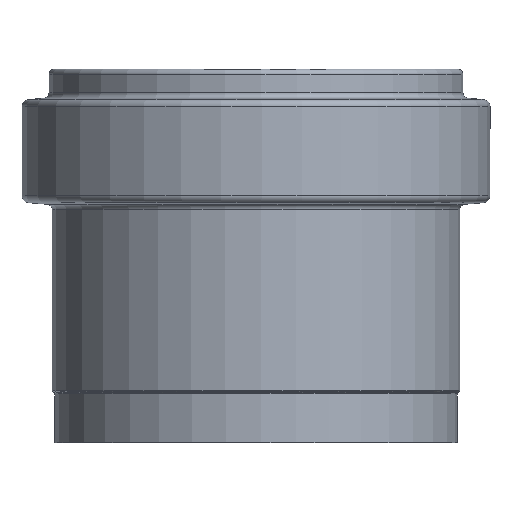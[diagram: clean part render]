
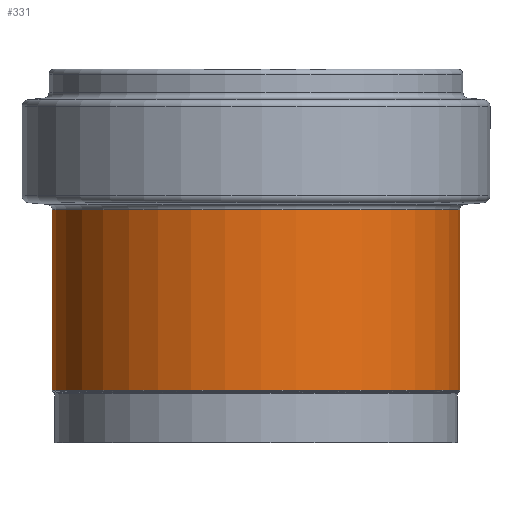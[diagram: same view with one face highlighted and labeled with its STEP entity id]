
A CAD part, front view. The second image highlights one B-rep face of the part: STEP entity #331.
In plain terms, the highlighted cylindrical face has radius 28.475 mm (diameter 56.95 mm), a full revolution.
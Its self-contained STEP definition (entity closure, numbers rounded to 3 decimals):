
#42=FACE_BOUND('',#107,.T.);
#70=FACE_OUTER_BOUND('',#106,.T.);
#106=EDGE_LOOP('',(#246));
#107=EDGE_LOOP('',(#247));
#154=CIRCLE('',#381,28.475);
#155=CIRCLE('',#383,28.475);
#182=VERTEX_POINT('',#560);
#183=VERTEX_POINT('',#563);
#210=EDGE_CURVE('',#182,#182,#154,.T.);
#211=EDGE_CURVE('',#183,#183,#155,.T.);
#246=ORIENTED_EDGE('',*,*,#210,.T.);
#247=ORIENTED_EDGE('',*,*,#211,.F.);
#288=CYLINDRICAL_SURFACE('',#382,28.475);
#331=ADVANCED_FACE('',(#70,#42),#288,.T.);
#381=AXIS2_PLACEMENT_3D('',#561,#455,#456);
#382=AXIS2_PLACEMENT_3D('',#562,#457,#458);
#383=AXIS2_PLACEMENT_3D('',#564,#459,#460);
#455=DIRECTION('center_axis',(0.,0.,
-1.));
#456=DIRECTION('ref_axis',(0.878,-0.479,0.));
#457=DIRECTION('center_axis',(0.,0.,-1.));
#458=DIRECTION('ref_axis',(1.,0.,0.));
#459=DIRECTION('center_axis',(0.,0.,
-1.));
#460=DIRECTION('ref_axis',(0.878,-0.479,0.));
#560=CARTESIAN_POINT('',(24.989,-13.652,-19.631));
#561=CARTESIAN_POINT('Origin',(0.,0.,
-19.631));
#562=CARTESIAN_POINT('Origin',(0.,0.,-26.101));
#563=CARTESIAN_POINT('',(24.989,-13.652,-44.827));
#564=CARTESIAN_POINT('Origin',(0.,0.,
-44.827));
